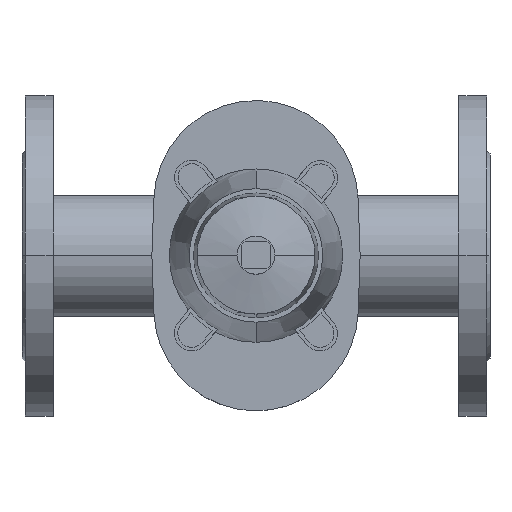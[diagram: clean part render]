
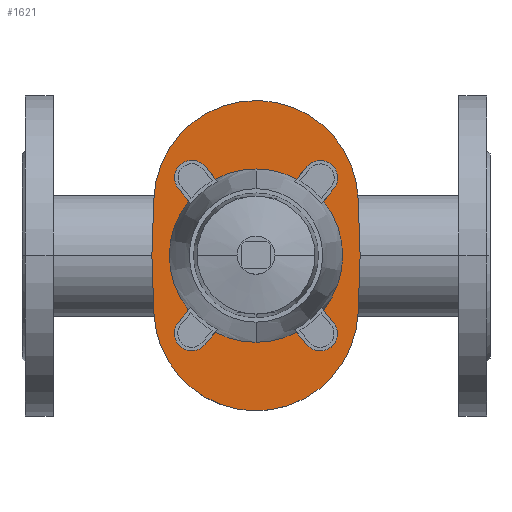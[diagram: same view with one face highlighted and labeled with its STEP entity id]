
A CAD part, top view. The second image highlights one B-rep face of the part: STEP entity #1621.
In plain terms, the highlighted planar face has unit normal (0, 0, 1).
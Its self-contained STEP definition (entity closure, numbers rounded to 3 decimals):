
#1621=ADVANCED_FACE('',(#3181),#3182,.F.);
#3181=FACE_OUTER_BOUND('',#5178,.T.);
#3182=PLANE('',#5179);
#5178=EDGE_LOOP('',(#8099,#8100,#8101,#8102,#8103,#8104,#8105,#8106));
#5179=AXIS2_PLACEMENT_3D('',#8107,#8108,#8109);
#8099=ORIENTED_EDGE('',*,*,#11363,.F.);
#8100=ORIENTED_EDGE('',*,*,#11583,.F.);
#8101=ORIENTED_EDGE('',*,*,#10631,.F.);
#8102=ORIENTED_EDGE('',*,*,#11584,.F.);
#8103=ORIENTED_EDGE('',*,*,#11498,.F.);
#8104=ORIENTED_EDGE('',*,*,#11585,.F.);
#8105=ORIENTED_EDGE('',*,*,#11153,.F.);
#8106=ORIENTED_EDGE('',*,*,#11586,.F.);
#8107=CARTESIAN_POINT('',(135.,-0.008,121.5));
#8108=DIRECTION('',(-0.0,0.0,-1.0));
#8109=DIRECTION('',(-0.034,-0.999,0.0));
#10631=EDGE_CURVE('',#12436,#12438,#12439,.T.);
#11153=EDGE_CURVE('',#13310,#13312,#13313,.T.);
#11363=EDGE_CURVE('',#13630,#13626,#13632,.T.);
#11498=EDGE_CURVE('',#13827,#13822,#13829,.T.);
#11583=EDGE_CURVE('',#12438,#13630,#13943,.T.);
#11584=EDGE_CURVE('',#13822,#12436,#13944,.T.);
#11585=EDGE_CURVE('',#13312,#13827,#13945,.T.);
#11586=EDGE_CURVE('',#13626,#13310,#13946,.T.);
#12436=VERTEX_POINT('',#14981);
#12438=VERTEX_POINT('',#14984);
#12439=LINE('',#14985,#14986);
#13310=VERTEX_POINT('',#16117);
#13312=VERTEX_POINT('',#16120);
#13313=LINE('',#16121,#16122);
#13626=VERTEX_POINT('',#16543);
#13630=VERTEX_POINT('',#16548);
#13632=CIRCLE('',#16551,59.);
#13822=VERTEX_POINT('',#16811);
#13827=VERTEX_POINT('',#16817);
#13829=CIRCLE('',#16820,58.999);
#13943=LINE('',#16979,#16980);
#13944=CIRCLE('',#16981,58.999);
#13945=LINE('',#16982,#16983);
#13946=CIRCLE('',#16984,59.);
#14981=CARTESIAN_POINT('',(76.034,-32.511,121.5));
#14984=CARTESIAN_POINT('',(74.926,0.,121.5));
#14985=CARTESIAN_POINT('',(76.034,-32.511,121.5));
#14986=VECTOR('',#18176,1.);
#16117=CARTESIAN_POINT('',(193.966,32.511,121.5));
#16120=CARTESIAN_POINT('',(195.074,0.,121.5));
#16121=CARTESIAN_POINT('',(193.966,32.511,121.5));
#16122=VECTOR('',#18906,1.);
#16543=CARTESIAN_POINT('',(137.011,89.465,121.5));
#16548=CARTESIAN_POINT('',(76.034,32.511,121.5));
#16551=AXIS2_PLACEMENT_3D('',#19164,#19165,#19166);
#16811=CARTESIAN_POINT('',(132.989,-89.483,121.5));
#16817=CARTESIAN_POINT('',(193.966,-32.511,121.5));
#16820=AXIS2_PLACEMENT_3D('',#19326,#19327,#19328);
#16979=CARTESIAN_POINT('',(74.926,0.,121.5));
#16980=VECTOR('',#19428,1.);
#16981=AXIS2_PLACEMENT_3D('',#19429,#19430,#19431);
#16982=CARTESIAN_POINT('',(195.074,0.,121.5));
#16983=VECTOR('',#19432,1.);
#16984=AXIS2_PLACEMENT_3D('',#19433,#19434,#19435);
#18176=DIRECTION('',(-0.034,0.999,0.0));
#18906=DIRECTION('',(0.034,-0.999,0.0));
#19164=CARTESIAN_POINT('',(135.,30.5,121.5));
#19165=DIRECTION('',(-0.0,0.0,-1.0));
#19166=DIRECTION('',(-0.034,-0.999,0.0));
#19326=CARTESIAN_POINT('',(135.,-30.518,121.5));
#19327=DIRECTION('',(-0.0,0.0,-1.0));
#19328=DIRECTION('',(-0.034,-0.999,0.0));
#19428=DIRECTION('',(0.034,0.999,0.0));
#19429=CARTESIAN_POINT('',(135.,-30.518,121.5));
#19430=DIRECTION('',(-0.0,0.0,-1.0));
#19431=DIRECTION('',(-0.034,-0.999,0.0));
#19432=DIRECTION('',(-0.034,-0.999,0.0));
#19433=CARTESIAN_POINT('',(135.,30.5,121.5));
#19434=DIRECTION('',(-0.0,0.0,-1.0));
#19435=DIRECTION('',(-0.034,-0.999,0.0));
